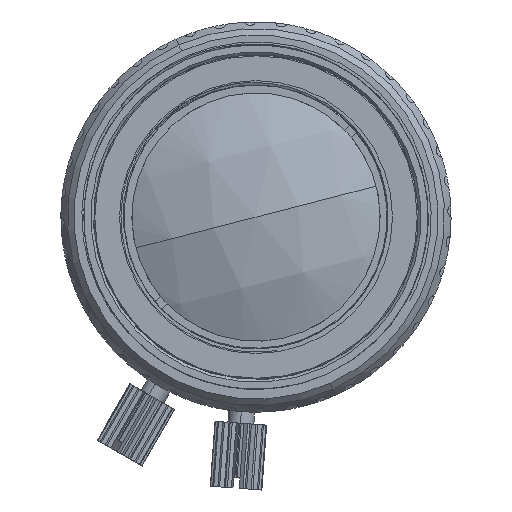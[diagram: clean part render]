
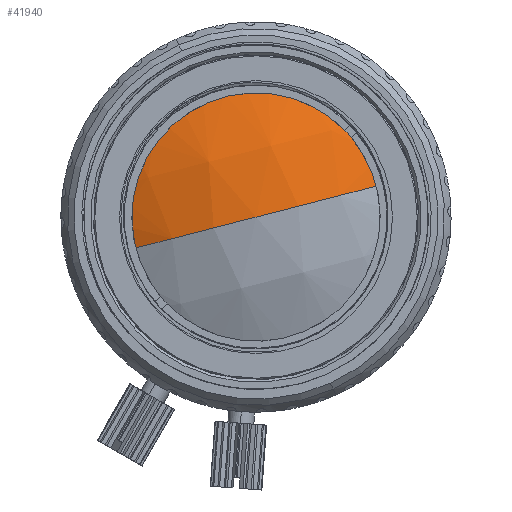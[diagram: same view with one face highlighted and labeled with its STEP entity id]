
A CAD part, left-side view. The second image highlights one B-rep face of the part: STEP entity #41940.
In plain terms, the highlighted spherical face has radius 23.06 mm.
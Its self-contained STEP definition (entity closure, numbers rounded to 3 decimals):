
#1651 = VERTEX_POINT ( 'NONE', #44236 ) ;
#3301 = CARTESIAN_POINT ( 'NONE',  ( 2.186, 0., 0. ) ) ;
#4083 = DIRECTION ( 'NONE',  ( 0., 0., -1. ) ) ;
#6958 = SPHERICAL_SURFACE ( 'NONE', #7065, 23.06 ) ;
#7065 = AXIS2_PLACEMENT_3D ( 'NONE', #75172, #31598, #14651 ) ;
#8358 = CIRCLE ( 'NONE', #75365, 9.8 ) ;
#13072 = DIRECTION ( 'NONE',  ( 0., 0., -1. ) ) ;
#14651 = DIRECTION ( 'NONE',  ( 0., 1., 0. ) ) ;
#17321 = EDGE_LOOP ( 'NONE', ( #50614, #58047, #66722, #33749 ) ) ;
#18634 = DIRECTION ( 'NONE',  ( -1., 0., 0. ) ) ;
#18737 = DIRECTION ( 'NONE',  ( 0., 0., 1. ) ) ;
#20113 = CARTESIAN_POINT ( 'NONE',  ( 2.186, -9.8, 0. ) ) ;
#21083 = FACE_OUTER_BOUND ( 'NONE', #17321, .T. ) ;
#26668 = CARTESIAN_POINT ( 'NONE',  ( 23.06, 0., 0. ) ) ;
#27492 = CARTESIAN_POINT ( 'NONE',  ( 2.186, 0., 9.8 ) ) ;
#31598 = DIRECTION ( 'NONE',  ( 0., 0., 1. ) ) ;
#32427 = DIRECTION ( 'NONE',  ( 1., 0., 0. ) ) ;
#33749 = ORIENTED_EDGE ( 'NONE', *, *, #73263, .F. ) ;
#37939 = EDGE_CURVE ( 'NONE', #50532, #68177, #8358, .T. ) ;
#38249 = EDGE_CURVE ( 'NONE', #51069, #1651, #68972, .T. ) ;
#41940 = ADVANCED_FACE ( 'NONE', ( #21083 ), #6958, .T. ) ;
#44236 = CARTESIAN_POINT ( 'NONE',  ( 2.186, 9.8, 0. ) ) ;
#46214 = CIRCLE ( 'NONE', #78431, 9.8 ) ;
#46473 = EDGE_CURVE ( 'NONE', #51069, #68177, #57606, .T. ) ;
#50532 = VERTEX_POINT ( 'NONE', #27492 ) ;
#50614 = ORIENTED_EDGE ( 'NONE', *, *, #38249, .F. ) ;
#51069 = VERTEX_POINT ( 'NONE', #67990 ) ;
#57606 = CIRCLE ( 'NONE', #70510, 23.06 ) ;
#58047 = ORIENTED_EDGE ( 'NONE', *, *, #46473, .T. ) ;
#65039 = DIRECTION ( 'NONE',  ( 1., 0., 0. ) ) ;
#66722 = ORIENTED_EDGE ( 'NONE', *, *, #37939, .F. ) ;
#67569 = DIRECTION ( 'NONE',  ( 0., -1., 0. ) ) ;
#67990 = CARTESIAN_POINT ( 'NONE',  ( 0., 0., 0. ) ) ;
#68177 = VERTEX_POINT ( 'NONE', #20113 ) ;
#68344 = CARTESIAN_POINT ( 'NONE',  ( 2.186, 0., 0. ) ) ;
#68972 = CIRCLE ( 'NONE', #71542, 23.06 ) ;
#70510 = AXIS2_PLACEMENT_3D ( 'NONE', #79696, #18737, #67569 ) ;
#71542 = AXIS2_PLACEMENT_3D ( 'NONE', #26668, #73909, #18634 ) ;
#73263 = EDGE_CURVE ( 'NONE', #1651, #50532, #46214, .T. ) ;
#73909 = DIRECTION ( 'NONE',  ( 0., 0., -1. ) ) ;
#75172 = CARTESIAN_POINT ( 'NONE',  ( 23.06, 0., 0. ) ) ;
#75365 = AXIS2_PLACEMENT_3D ( 'NONE', #68344, #32427, #13072 ) ;
#78431 = AXIS2_PLACEMENT_3D ( 'NONE', #3301, #65039, #4083 ) ;
#79696 = CARTESIAN_POINT ( 'NONE',  ( 23.06, 0., 0. ) ) ;
